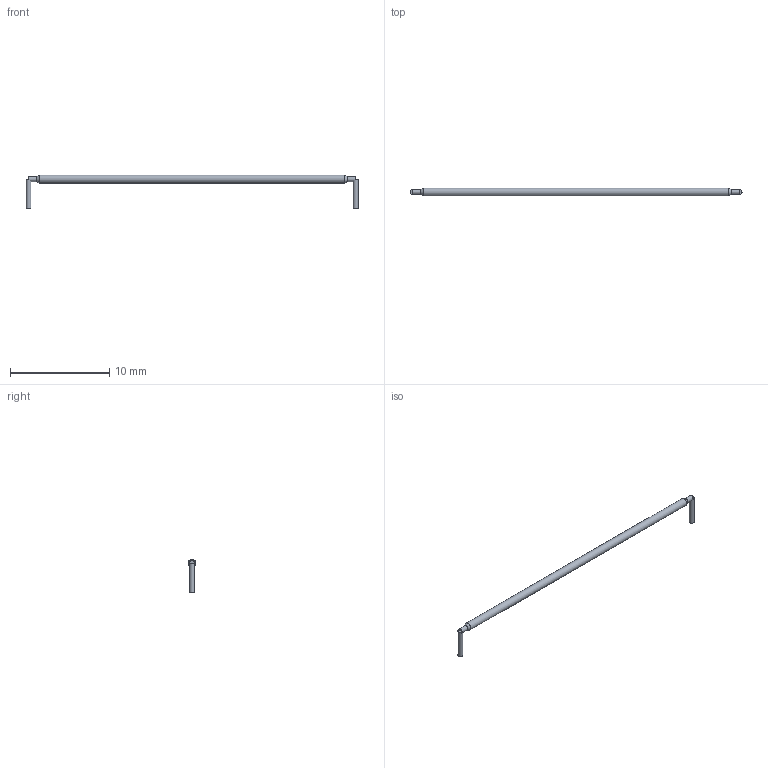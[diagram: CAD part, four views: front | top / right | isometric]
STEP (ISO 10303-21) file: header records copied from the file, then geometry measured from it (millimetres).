
FILE_DESCRIPTION(('FreeCAD Model'),'2;1');
FILE_NAME('Open CASCADE Shape Model','2026-04-07T19:07:43',('FreeCAD'),( 'FreeCAD'),'Open CASCADE STEP processor 7.8','FreeCAD','Unknown');
FILE_SCHEMA(('AUTOMOTIVE_DESIGN { 1 0 10303 214 1 1 1 1 }'));
Length unit declared in the file: millimetre
Products named in the file (1): Open CASCADE STEP translator 7.8 13
Bounding box: 33.52 x 0.8 x 3.4 mm (x, y, z)
Volume: 23.4 mm3; surface area: 141.7 mm2
Topology: 4 solids, 4 shells, 14 faces, 16 edges, 10 vertices
Faces by surface type: plane 8, cylinder 4, cone 2
Full cylindrical faces by diameter (mm): 0.5 x3, 0.8 x1
Entity records: 287 total; most frequent: DIRECTION 56, CARTESIAN_POINT 41, ORIENTED_EDGE 32, AXIS2_PLACEMENT_3D 25, EDGE_CURVE 16, ADVANCED_FACE 14, FACE_BOUND 14, EDGE_LOOP 14
